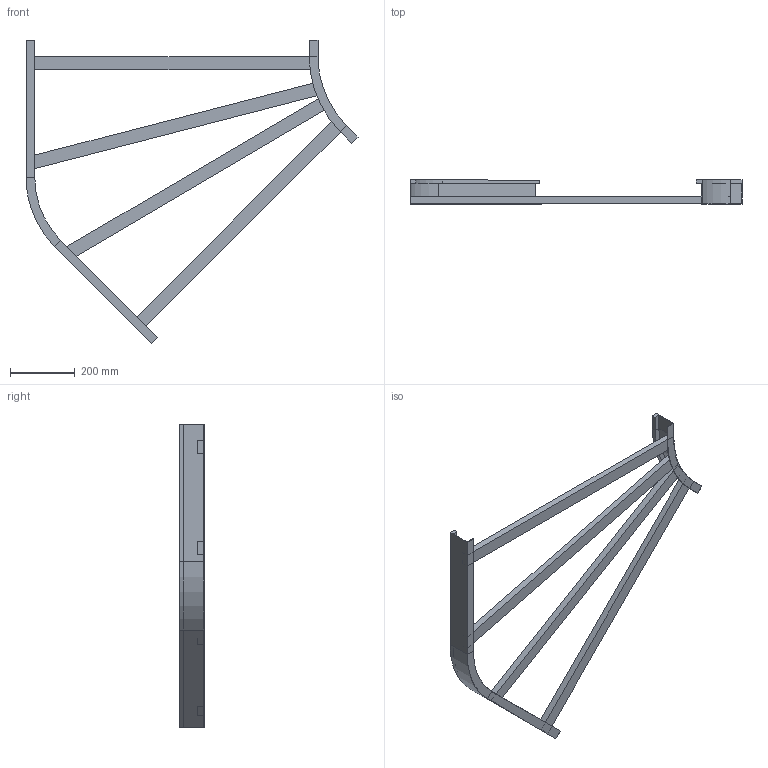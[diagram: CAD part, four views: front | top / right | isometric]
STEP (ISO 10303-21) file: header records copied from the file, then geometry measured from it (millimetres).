
FILE_DESCRIPTION (( 'STEP AP214' ), '1' );
FILE_NAME ('B2_11B3C900.step', '2025-02-21T15:16:55', ( '' ), ( '' ), 'SwSTEP 2.0', 'SolidWorks 2023', '' );
FILE_SCHEMA (( 'AUTOMOTIVE_DESIGN' ));
Length unit declared in the file: millimetre
Products named in the file (5): TRAVERSINO_900; B2_LONGH.ESTERNO 45°_H75_R300+900; B2_LONGH.INTERNO 45°_H75_R300; TRAVERSINO_1000_SCANTONATO; B2_11B3C900
Assembly tree (6 placements, depth 2):
  B2_11B3C900
    B2_LONGH.INTERNO 45°_H75_R300
    B2_LONGH.ESTERNO 45°_H75_R300+900
    TRAVERSINO_900  x2
    TRAVERSINO_1000_SCANTONATO  x2
Bounding box: 1023.22 x 75 x 933.88 mm (x, y, z)
Volume: 3529940.8 mm3; surface area: 786820.8 mm2
Topology: 6 solids, 6 shells, 76 faces, 160 edges, 96 vertices
Faces by surface type: plane 68, cylinder 8
Entity records: 1830 total; most frequent: DIRECTION 298, CARTESIAN_POINT 289, ORIENTED_EDGE 272, EDGE_CURVE 136, LINE 120, VECTOR 120, AXIS2_PLACEMENT_3D 89, VERTEX_POINT 80
